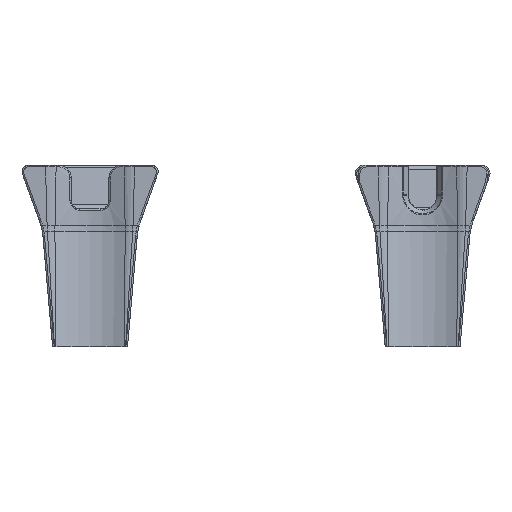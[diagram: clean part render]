
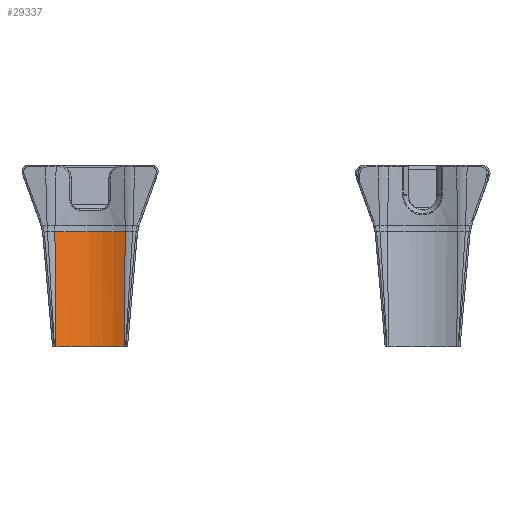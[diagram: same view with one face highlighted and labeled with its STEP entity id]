
A CAD part, front view. The second image highlights one B-rep face of the part: STEP entity #29337.
In plain terms, the highlighted cylindrical face has radius 48 mm (diameter 96 mm), a partial arc.
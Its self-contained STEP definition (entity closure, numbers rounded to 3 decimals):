
#6263=CYLINDRICAL_SURFACE('',#31413,48.);
#6878=ELLIPSE('',#30878,48.264,48.);
#7811=FACE_OUTER_BOUND('',#9584,.T.);
#9584=EDGE_LOOP('',(#21683,#21684,#21685,#21686));
#11828=B_SPLINE_CURVE_WITH_KNOTS('',3,(#46456,#46457,#46458,#46459,#46460,
#46461),.UNSPECIFIED.,.F.,.F.,(4,1,1,4),(4.311,4.311,
4.314,11.709),.UNSPECIFIED.);
#11835=B_SPLINE_CURVE_WITH_KNOTS('',3,(#46883,#46884,#46885,#46886,#46887,
#46888),.UNSPECIFIED.,.F.,.F.,(4,1,1,4),(-11.709,-4.314,
-4.311,-4.311),.UNSPECIFIED.);
#11836=B_SPLINE_CURVE_WITH_KNOTS('',3,(#46889,#46890,#46891,#46892,#46893,
#46894,#46895,#46896,#46897),.UNSPECIFIED.,.F.,.F.,(4,1,1,1,1,1,4),(-1.675,
-1.565,-1.344,-1.234,-1.124,
-1.013,-0.903),.UNSPECIFIED.);
#12573=VERTEX_POINT('',#43616);
#12574=VERTEX_POINT('',#43639);
#12929=VERTEX_POINT('',#46451);
#12932=VERTEX_POINT('',#46882);
#15413=EDGE_CURVE('',#12573,#12574,#6878,.T.);
#16119=EDGE_CURVE('',#12929,#12573,#11828,.T.);
#16126=EDGE_CURVE('',#12574,#12932,#11835,.T.);
#16127=EDGE_CURVE('',#12932,#12929,#11836,.T.);
#21683=ORIENTED_EDGE('',*,*,#16126,.F.);
#21684=ORIENTED_EDGE('',*,*,#15413,.F.);
#21685=ORIENTED_EDGE('',*,*,#16119,.F.);
#21686=ORIENTED_EDGE('',*,*,#16127,.F.);
#29337=ADVANCED_FACE('',(#7811),#6263,.F.);
#30878=AXIS2_PLACEMENT_3D('',#43640,#34139,#34140);
#31413=AXIS2_PLACEMENT_3D('',#46881,#35665,#35666);
#34139=DIRECTION('center_axis',(0.,0.,1.));
#34140=DIRECTION('ref_axis',(0.,1.,0.));
#35665=DIRECTION('center_axis',(0.,0.105,0.995));
#35666=DIRECTION('ref_axis',(1.,0.,0.));
#43616=CARTESIAN_POINT('',(20.401,93.658,0.));
#43639=CARTESIAN_POINT('',(-22.901,93.658,0.));
#43640=CARTESIAN_POINT('Origin',(-1.25,50.583,0.));
#46451=CARTESIAN_POINT('',(21.04,101.016,73.147));
#46456=CARTESIAN_POINT('Ctrl Pts',(21.04,101.016,73.147));
#46457=CARTESIAN_POINT('Ctrl Pts',(21.04,101.016,73.146));
#46458=CARTESIAN_POINT('Ctrl Pts',(21.04,101.015,73.138));
#46459=CARTESIAN_POINT('Ctrl Pts',(20.86,98.547,48.756));
#46460=CARTESIAN_POINT('Ctrl Pts',(20.653,96.092,24.379));
#46461=CARTESIAN_POINT('Ctrl Pts',(20.401,93.658,0.));
#46881=CARTESIAN_POINT('Origin',(-1.25,49.431,-10.957));
#46882=CARTESIAN_POINT('',(-23.54,101.016,73.147));
#46883=CARTESIAN_POINT('Ctrl Pts',(-22.901,93.658,0.));
#46884=CARTESIAN_POINT('Ctrl Pts',(-23.153,96.092,24.379));
#46885=CARTESIAN_POINT('Ctrl Pts',(-23.36,98.547,48.756));
#46886=CARTESIAN_POINT('Ctrl Pts',(-23.54,101.015,73.138));
#46887=CARTESIAN_POINT('Ctrl Pts',(-23.54,101.016,73.146));
#46888=CARTESIAN_POINT('Ctrl Pts',(-23.54,101.016,73.147));
#46889=CARTESIAN_POINT('Ctrl Pts',(-23.54,101.016,73.147));
#46890=CARTESIAN_POINT('Ctrl Pts',(-21.6,102.034,73.104));
#46891=CARTESIAN_POINT('Ctrl Pts',(-15.609,104.687,72.992));
#46892=CARTESIAN_POINT('Ctrl Pts',(-6.78,106.553,72.913));
#46893=CARTESIAN_POINT('Ctrl Pts',(2.065,106.549,72.914));
#46894=CARTESIAN_POINT('Ctrl Pts',(8.704,105.626,72.952));
#46895=CARTESIAN_POINT('Ctrl Pts',(15.095,103.799,73.029));
#46896=CARTESIAN_POINT('Ctrl Pts',(19.1,102.034,73.104));
#46897=CARTESIAN_POINT('Ctrl Pts',(21.04,101.016,73.147));
